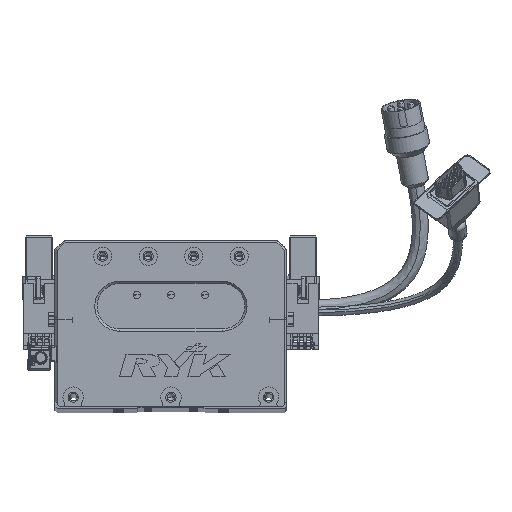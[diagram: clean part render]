
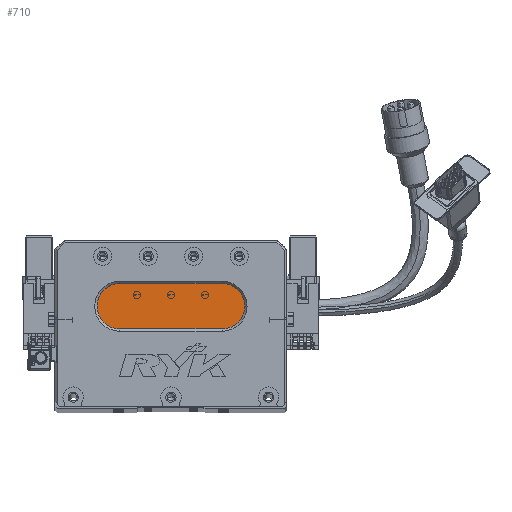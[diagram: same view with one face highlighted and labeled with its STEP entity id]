
A CAD part, top view. The second image highlights one B-rep face of the part: STEP entity #710.
In plain terms, the highlighted planar face has unit normal (0, 0, 1) as drawn and (0, 0, -1) by its records, which use the part's own axes.
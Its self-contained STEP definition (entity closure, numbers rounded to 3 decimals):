
#710 = ADVANCED_FACE ( 'NONE', ( #55452 ), #49918, .T. ) ;
#2210 = DIRECTION ( 'NONE',  ( 1., 0., 0. ) ) ;
#2356 = VECTOR ( 'NONE', #2210, 1000. ) ;
#3716 = CARTESIAN_POINT ( 'NONE',  ( 28.5, 34., 13. ) ) ;
#4340 = CIRCLE ( 'NONE', #68273, 10. ) ;
#5201 = DIRECTION ( 'NONE',  ( -1., 0., 0. ) ) ;
#6543 = AXIS2_PLACEMENT_3D ( 'NONE', #28026, #66452, #28922 ) ;
#9319 = DIRECTION ( 'NONE',  ( -1., 0., 0. ) ) ;
#10996 = CARTESIAN_POINT ( 'NONE',  ( 73.5, 34., 13. ) ) ;
#14265 = LINE ( 'NONE', #49928, #23323 ) ;
#16028 = ORIENTED_EDGE ( 'NONE', *, *, #34981, .T. ) ;
#16715 = CIRCLE ( 'NONE', #57210, 10. ) ;
#17562 = EDGE_CURVE ( 'NONE', #37601, #35509, #16715, .T. ) ;
#17900 = CARTESIAN_POINT ( 'NONE',  ( 73.5, 54., 13. ) ) ;
#18859 = LINE ( 'NONE', #17900, #2356 ) ;
#20447 = CARTESIAN_POINT ( 'NONE',  ( 28.5, 44., 13. ) ) ;
#23028 = CIRCLE ( 'NONE', #23381, 10. ) ;
#23323 = VECTOR ( 'NONE', #66013, 1000. ) ;
#23381 = AXIS2_PLACEMENT_3D ( 'NONE', #20447, #31464, #5201 ) ;
#23384 = EDGE_CURVE ( 'NONE', #66365, #48880, #18859, .T. ) ;
#26336 = ORIENTED_EDGE ( 'NONE', *, *, #48782, .T. ) ;
#28026 = CARTESIAN_POINT ( 'NONE',  ( 73.5, 44., 13. ) ) ;
#28922 = DIRECTION ( 'NONE',  ( -1., 0., 0. ) ) ;
#30229 = DIRECTION ( 'NONE',  ( 0., 0., -1. ) ) ;
#30457 = CARTESIAN_POINT ( 'NONE',  ( 18.5, 44., 13. ) ) ;
#30605 = ORIENTED_EDGE ( 'NONE', *, *, #32061, .T. ) ;
#31464 = DIRECTION ( 'NONE',  ( 0., 0., -1. ) ) ;
#32061 = EDGE_CURVE ( 'NONE', #48880, #49673, #4340, .T. ) ;
#33882 = DIRECTION ( 'NONE',  ( -1., 0., 0. ) ) ;
#34339 = DIRECTION ( 'NONE',  ( 0., 0., -1. ) ) ;
#34981 = EDGE_CURVE ( 'NONE', #35509, #66365, #23028, .T. ) ;
#35509 = VERTEX_POINT ( 'NONE', #30457 ) ;
#37601 = VERTEX_POINT ( 'NONE', #3716 ) ;
#44167 = ORIENTED_EDGE ( 'NONE', *, *, #23384, .T. ) ;
#45981 = CARTESIAN_POINT ( 'NONE',  ( 73.5, 54., 13. ) ) ;
#48782 = EDGE_CURVE ( 'NONE', #49673, #37601, #14265, .T. ) ;
#48880 = VERTEX_POINT ( 'NONE', #45981 ) ;
#49673 = VERTEX_POINT ( 'NONE', #10996 ) ;
#49918 = PLANE ( 'NONE',  #6543 ) ;
#49928 = CARTESIAN_POINT ( 'NONE',  ( 73.5, 34., 13. ) ) ;
#50520 = EDGE_LOOP ( 'NONE', ( #30605, #26336, #59349, #16028, #44167 ) ) ;
#55452 = FACE_OUTER_BOUND ( 'NONE', #50520, .T. ) ;
#57210 = AXIS2_PLACEMENT_3D ( 'NONE', #60177, #34339, #33882 ) ;
#59349 = ORIENTED_EDGE ( 'NONE', *, *, #17562, .T. ) ;
#60177 = CARTESIAN_POINT ( 'NONE',  ( 28.5, 44., 13. ) ) ;
#61706 = CARTESIAN_POINT ( 'NONE',  ( 28.5, 54., 13. ) ) ;
#62285 = CARTESIAN_POINT ( 'NONE',  ( 73.5, 44., 13. ) ) ;
#66013 = DIRECTION ( 'NONE',  ( -1., 0., 0. ) ) ;
#66365 = VERTEX_POINT ( 'NONE', #61706 ) ;
#66452 = DIRECTION ( 'NONE',  ( 0., 0., -1. ) ) ;
#68273 = AXIS2_PLACEMENT_3D ( 'NONE', #62285, #30229, #9319 ) ;
